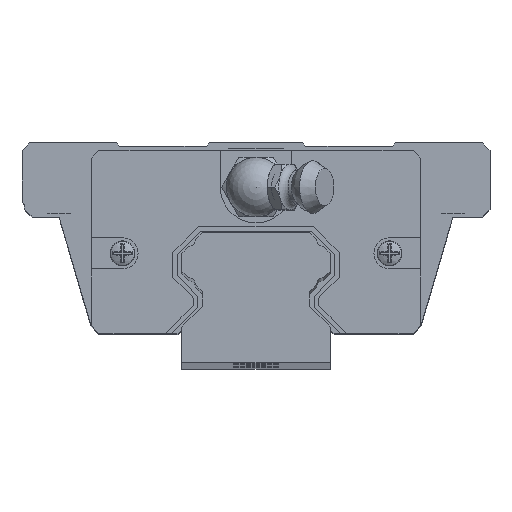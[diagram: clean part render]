
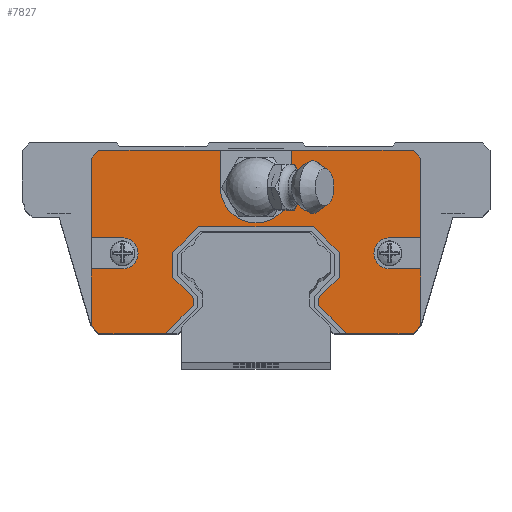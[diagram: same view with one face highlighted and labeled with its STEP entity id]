
A CAD part, top view. The second image highlights one B-rep face of the part: STEP entity #7827.
In plain terms, the highlighted planar face has unit normal (0, 0, 1).
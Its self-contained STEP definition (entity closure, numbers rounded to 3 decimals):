
#608=LINE('',#12571,#1440);
#612=LINE('',#12579,#1444);
#613=LINE('',#12581,#1445);
#614=LINE('',#12583,#1446);
#615=LINE('',#12585,#1447);
#616=LINE('',#12587,#1448);
#617=LINE('',#12589,#1449);
#618=LINE('',#12591,#1450);
#619=LINE('',#12593,#1451);
#620=LINE('',#12595,#1452);
#621=LINE('',#12597,#1453);
#622=LINE('',#12599,#1454);
#623=LINE('',#12601,#1455);
#624=LINE('',#12603,#1456);
#625=LINE('',#12605,#1457);
#626=LINE('',#12607,#1458);
#627=LINE('',#12611,#1459);
#628=LINE('',#12613,#1460);
#629=LINE('',#12615,#1461);
#630=LINE('',#12617,#1462);
#631=LINE('',#12619,#1463);
#632=LINE('',#12623,#1464);
#633=LINE('',#12625,#1465);
#634=LINE('',#12627,#1466);
#635=LINE('',#12629,#1467);
#636=LINE('',#12630,#1468);
#637=LINE('',#12632,#1469);
#638=LINE('',#12634,#1470);
#639=LINE('',#12635,#1471);
#1440=VECTOR('',#10203,1000.);
#1444=VECTOR('',#10209,1000.);
#1445=VECTOR('',#10210,1000.);
#1446=VECTOR('',#10211,1000.);
#1447=VECTOR('',#10212,1000.);
#1448=VECTOR('',#10213,1000.);
#1449=VECTOR('',#10214,1000.);
#1450=VECTOR('',#10215,1000.);
#1451=VECTOR('',#10216,1000.);
#1452=VECTOR('',#10217,1000.);
#1453=VECTOR('',#10218,1000.);
#1454=VECTOR('',#10219,1000.);
#1455=VECTOR('',#10220,1000.);
#1456=VECTOR('',#10221,1000.);
#1457=VECTOR('',#10222,1000.);
#1458=VECTOR('',#10223,1000.);
#1459=VECTOR('',#10226,1000.);
#1460=VECTOR('',#10227,1000.);
#1461=VECTOR('',#10228,1000.);
#1462=VECTOR('',#10229,1000.);
#1463=VECTOR('',#10230,1000.);
#1464=VECTOR('',#10233,1000.);
#1465=VECTOR('',#10234,1000.);
#1466=VECTOR('',#10235,1000.);
#1467=VECTOR('',#10236,1000.);
#1468=VECTOR('',#10237,1000.);
#1469=VECTOR('',#10238,1000.);
#1470=VECTOR('',#10239,1000.);
#1471=VECTOR('',#10240,1000.);
#1935=PLANE('',#8498);
#2567=FACE_OUTER_BOUND('',#3068,.T.);
#3068=EDGE_LOOP('',(#6825,#6826,#6827,#6828,#6829,#6830,#6831,#6832,#6833,
#6834,#6835,#6836,#6837,#6838,#6839,#6840,#6841,#6842,#6843,#6844,#6845,
#6846,#6847,#6848,#6849,#6850,#6851,#6852,#6853,#6854,#6855,#6856));
#3419=CIRCLE('',#8496,2.095);
#3420=CIRCLE('',#8499,2.095);
#3421=CIRCLE('',#8500,4.8);
#4004=VERTEX_POINT('',#12555);
#4005=VERTEX_POINT('',#12557);
#4010=VERTEX_POINT('',#12568);
#4011=VERTEX_POINT('',#12570);
#4014=VERTEX_POINT('',#12578);
#4015=VERTEX_POINT('',#12580);
#4016=VERTEX_POINT('',#12582);
#4017=VERTEX_POINT('',#12584);
#4018=VERTEX_POINT('',#12586);
#4019=VERTEX_POINT('',#12588);
#4020=VERTEX_POINT('',#12590);
#4021=VERTEX_POINT('',#12592);
#4022=VERTEX_POINT('',#12594);
#4023=VERTEX_POINT('',#12596);
#4024=VERTEX_POINT('',#12598);
#4025=VERTEX_POINT('',#12600);
#4026=VERTEX_POINT('',#12602);
#4027=VERTEX_POINT('',#12604);
#4028=VERTEX_POINT('',#12606);
#4029=VERTEX_POINT('',#12608);
#4030=VERTEX_POINT('',#12610);
#4031=VERTEX_POINT('',#12612);
#4032=VERTEX_POINT('',#12614);
#4033=VERTEX_POINT('',#12616);
#4034=VERTEX_POINT('',#12618);
#4035=VERTEX_POINT('',#12620);
#4036=VERTEX_POINT('',#12622);
#4037=VERTEX_POINT('',#12624);
#4038=VERTEX_POINT('',#12626);
#4039=VERTEX_POINT('',#12628);
#4040=VERTEX_POINT('',#12631);
#4041=VERTEX_POINT('',#12633);
#4989=EDGE_CURVE('',#4004,#4005,#3419,.T.);
#4995=EDGE_CURVE('',#4011,#4010,#608,.T.);
#4999=EDGE_CURVE('',#4010,#4014,#612,.T.);
#5000=EDGE_CURVE('',#4014,#4015,#613,.T.);
#5001=EDGE_CURVE('',#4015,#4016,#614,.T.);
#5002=EDGE_CURVE('',#4016,#4017,#615,.T.);
#5003=EDGE_CURVE('',#4017,#4018,#616,.T.);
#5004=EDGE_CURVE('',#4018,#4019,#617,.T.);
#5005=EDGE_CURVE('',#4019,#4020,#618,.T.);
#5006=EDGE_CURVE('',#4020,#4021,#619,.T.);
#5007=EDGE_CURVE('',#4021,#4022,#620,.T.);
#5008=EDGE_CURVE('',#4022,#4023,#621,.T.);
#5009=EDGE_CURVE('',#4023,#4024,#622,.T.);
#5010=EDGE_CURVE('',#4024,#4025,#623,.T.);
#5011=EDGE_CURVE('',#4025,#4026,#624,.T.);
#5012=EDGE_CURVE('',#4026,#4027,#625,.T.);
#5013=EDGE_CURVE('',#4027,#4028,#626,.T.);
#5014=EDGE_CURVE('',#4028,#4029,#3420,.T.);
#5015=EDGE_CURVE('',#4029,#4030,#627,.T.);
#5016=EDGE_CURVE('',#4030,#4031,#628,.T.);
#5017=EDGE_CURVE('',#4031,#4032,#629,.T.);
#5018=EDGE_CURVE('',#4032,#4033,#630,.T.);
#5019=EDGE_CURVE('',#4033,#4034,#631,.T.);
#5020=EDGE_CURVE('',#4034,#4035,#3421,.T.);
#5021=EDGE_CURVE('',#4035,#4036,#632,.T.);
#5022=EDGE_CURVE('',#4036,#4037,#633,.T.);
#5023=EDGE_CURVE('',#4037,#4038,#634,.T.);
#5024=EDGE_CURVE('',#4038,#4039,#635,.T.);
#5025=EDGE_CURVE('',#4039,#4005,#636,.T.);
#5026=EDGE_CURVE('',#4004,#4040,#637,.T.);
#5027=EDGE_CURVE('',#4040,#4041,#638,.T.);
#5028=EDGE_CURVE('',#4041,#4011,#639,.T.);
#6825=ORIENTED_EDGE('',*,*,#4999,.T.);
#6826=ORIENTED_EDGE('',*,*,#5000,.T.);
#6827=ORIENTED_EDGE('',*,*,#5001,.T.);
#6828=ORIENTED_EDGE('',*,*,#5002,.T.);
#6829=ORIENTED_EDGE('',*,*,#5003,.T.);
#6830=ORIENTED_EDGE('',*,*,#5004,.T.);
#6831=ORIENTED_EDGE('',*,*,#5005,.T.);
#6832=ORIENTED_EDGE('',*,*,#5006,.T.);
#6833=ORIENTED_EDGE('',*,*,#5007,.T.);
#6834=ORIENTED_EDGE('',*,*,#5008,.T.);
#6835=ORIENTED_EDGE('',*,*,#5009,.T.);
#6836=ORIENTED_EDGE('',*,*,#5010,.T.);
#6837=ORIENTED_EDGE('',*,*,#5011,.T.);
#6838=ORIENTED_EDGE('',*,*,#5012,.T.);
#6839=ORIENTED_EDGE('',*,*,#5013,.T.);
#6840=ORIENTED_EDGE('',*,*,#5014,.T.);
#6841=ORIENTED_EDGE('',*,*,#5015,.T.);
#6842=ORIENTED_EDGE('',*,*,#5016,.T.);
#6843=ORIENTED_EDGE('',*,*,#5017,.T.);
#6844=ORIENTED_EDGE('',*,*,#5018,.T.);
#6845=ORIENTED_EDGE('',*,*,#5019,.T.);
#6846=ORIENTED_EDGE('',*,*,#5020,.T.);
#6847=ORIENTED_EDGE('',*,*,#5021,.T.);
#6848=ORIENTED_EDGE('',*,*,#5022,.T.);
#6849=ORIENTED_EDGE('',*,*,#5023,.T.);
#6850=ORIENTED_EDGE('',*,*,#5024,.T.);
#6851=ORIENTED_EDGE('',*,*,#5025,.T.);
#6852=ORIENTED_EDGE('',*,*,#4989,.F.);
#6853=ORIENTED_EDGE('',*,*,#5026,.T.);
#6854=ORIENTED_EDGE('',*,*,#5027,.T.);
#6855=ORIENTED_EDGE('',*,*,#5028,.T.);
#6856=ORIENTED_EDGE('',*,*,#4995,.T.);
#7827=ADVANCED_FACE('',(#2567),#1935,.F.);
#8496=AXIS2_PLACEMENT_3D('',#12558,#10194,#10195);
#8498=AXIS2_PLACEMENT_3D('',#12577,#10207,#10208);
#8499=AXIS2_PLACEMENT_3D('',#12609,#10224,#10225);
#8500=AXIS2_PLACEMENT_3D('',#12621,#10231,#10232);
#10194=DIRECTION('center_axis',(0.,0.,1.));
#10195=DIRECTION('ref_axis',(1.,0.,0.));
#10203=DIRECTION('',(1.,0.,0.));
#10207=DIRECTION('center_axis',(0.,0.,-1.));
#10208=DIRECTION('ref_axis',(-1.,0.,0.));
#10209=DIRECTION('',(0.707,0.707,0.));
#10210=DIRECTION('',(0.,1.,0.));
#10211=DIRECTION('',(-0.707,0.707,0.));
#10212=DIRECTION('',(0.,1.,0.));
#10213=DIRECTION('',(0.707,0.707,0.));
#10214=DIRECTION('',(1.,0.,0.));
#10215=DIRECTION('',(0.707,-0.707,0.));
#10216=DIRECTION('',(0.,-1.,0.));
#10217=DIRECTION('',(-0.707,-0.707,0.));
#10218=DIRECTION('',(0.,-1.,0.));
#10219=DIRECTION('',(0.707,-0.707,0.));
#10220=DIRECTION('',(1.,0.,0.));
#10221=DIRECTION('',(0.707,0.707,0.));
#10222=DIRECTION('',(0.,1.,0.));
#10223=DIRECTION('',(-1.,0.,0.));
#10224=DIRECTION('center_axis',(0.,0.,-1.));
#10225=DIRECTION('ref_axis',(-1.,0.,0.));
#10226=DIRECTION('',(1.,0.,0.));
#10227=DIRECTION('',(0.,1.,0.));
#10228=DIRECTION('',(-0.707,0.707,0.));
#10229=DIRECTION('',(-1.,0.,0.));
#10230=DIRECTION('',(0.,-1.,0.));
#10231=DIRECTION('center_axis',(0.,0.,-1.));
#10232=DIRECTION('ref_axis',(-1.,0.,0.));
#10233=DIRECTION('',(0.,1.,0.));
#10234=DIRECTION('',(-1.,0.,0.));
#10235=DIRECTION('',(-0.707,-0.707,0.));
#10236=DIRECTION('',(0.,-1.,0.));
#10237=DIRECTION('',(1.,0.,0.));
#10238=DIRECTION('',(-1.,0.,0.));
#10239=DIRECTION('',(0.,-1.,0.));
#10240=DIRECTION('',(0.707,-0.707,0.));
#12555=CARTESIAN_POINT('',(-17.978,8.705,38.35));
#12557=CARTESIAN_POINT('',(-17.978,12.895,38.35));
#12558=CARTESIAN_POINT('Origin',(-17.978,10.8,38.35));
#12568=CARTESIAN_POINT('',(-12.197,0.,38.35));
#12570=CARTESIAN_POINT('',(-21.15,0.,38.35));
#12571=CARTESIAN_POINT('',(-21.15,0.,38.35));
#12577=CARTESIAN_POINT('Origin',(0.,-21.15,38.35));
#12578=CARTESIAN_POINT('',(-8.428,3.769,38.35));
#12579=CARTESIAN_POINT('',(-12.197,0.,38.35));
#12580=CARTESIAN_POINT('',(-8.428,4.783,38.35));
#12581=CARTESIAN_POINT('',(-8.428,3.769,38.35));
#12582=CARTESIAN_POINT('',(-11.2,7.555,38.35));
#12583=CARTESIAN_POINT('',(-8.428,4.783,38.35));
#12584=CARTESIAN_POINT('',(-11.2,10.925,38.35));
#12585=CARTESIAN_POINT('',(-11.2,7.555,38.35));
#12586=CARTESIAN_POINT('',(-7.725,14.4,38.35));
#12587=CARTESIAN_POINT('',(-11.2,10.925,38.35));
#12588=CARTESIAN_POINT('',(7.725,14.4,38.35));
#12589=CARTESIAN_POINT('',(-7.725,14.4,38.35));
#12590=CARTESIAN_POINT('',(11.2,10.925,38.35));
#12591=CARTESIAN_POINT('',(11.2,10.925,38.35));
#12592=CARTESIAN_POINT('',(11.2,7.555,38.35));
#12593=CARTESIAN_POINT('',(11.2,7.555,38.35));
#12594=CARTESIAN_POINT('',(8.428,4.783,38.35));
#12595=CARTESIAN_POINT('',(8.428,4.783,38.35));
#12596=CARTESIAN_POINT('',(8.428,3.769,38.35));
#12597=CARTESIAN_POINT('',(8.428,3.769,38.35));
#12598=CARTESIAN_POINT('',(12.197,0.,38.35));
#12599=CARTESIAN_POINT('',(12.197,0.,38.35));
#12600=CARTESIAN_POINT('',(21.15,0.,38.35));
#12601=CARTESIAN_POINT('',(-21.15,0.,38.35));
#12602=CARTESIAN_POINT('',(22.208,1.058,38.35));
#12603=CARTESIAN_POINT('',(22.208,1.058,38.35));
#12604=CARTESIAN_POINT('',(22.208,8.705,38.35));
#12605=CARTESIAN_POINT('',(22.208,1.058,38.35));
#12606=CARTESIAN_POINT('',(17.978,8.705,38.35));
#12607=CARTESIAN_POINT('',(22.208,8.705,38.35));
#12608=CARTESIAN_POINT('',(17.978,12.895,38.35));
#12609=CARTESIAN_POINT('Origin',(17.978,10.8,38.35));
#12610=CARTESIAN_POINT('',(22.208,12.895,38.35));
#12611=CARTESIAN_POINT('',(17.978,12.895,38.35));
#12612=CARTESIAN_POINT('',(22.208,23.615,38.35));
#12613=CARTESIAN_POINT('',(22.208,1.058,38.35));
#12614=CARTESIAN_POINT('',(21.15,24.672,38.35));
#12615=CARTESIAN_POINT('',(22.208,23.615,38.35));
#12616=CARTESIAN_POINT('',(4.8,24.672,38.35));
#12617=CARTESIAN_POINT('',(-21.15,24.672,38.35));
#12618=CARTESIAN_POINT('',(4.8,19.7,38.35));
#12619=CARTESIAN_POINT('',(4.8,19.7,38.35));
#12620=CARTESIAN_POINT('',(-4.8,19.7,38.35));
#12621=CARTESIAN_POINT('Origin',(0.,19.7,38.35));
#12622=CARTESIAN_POINT('',(-4.8,24.672,38.35));
#12623=CARTESIAN_POINT('',(-4.8,24.672,38.35));
#12624=CARTESIAN_POINT('',(-21.15,24.672,38.35));
#12625=CARTESIAN_POINT('',(-21.15,24.672,38.35));
#12626=CARTESIAN_POINT('',(-22.208,23.615,38.35));
#12627=CARTESIAN_POINT('',(-22.208,23.615,38.35));
#12628=CARTESIAN_POINT('',(-22.208,12.895,38.35));
#12629=CARTESIAN_POINT('',(-22.208,1.058,38.35));
#12630=CARTESIAN_POINT('',(-17.978,12.895,38.35));
#12631=CARTESIAN_POINT('',(-22.208,8.705,38.35));
#12632=CARTESIAN_POINT('',(-22.208,8.705,38.35));
#12633=CARTESIAN_POINT('',(-22.208,1.058,38.35));
#12634=CARTESIAN_POINT('',(-22.208,1.058,38.35));
#12635=CARTESIAN_POINT('',(-22.208,1.058,38.35));
